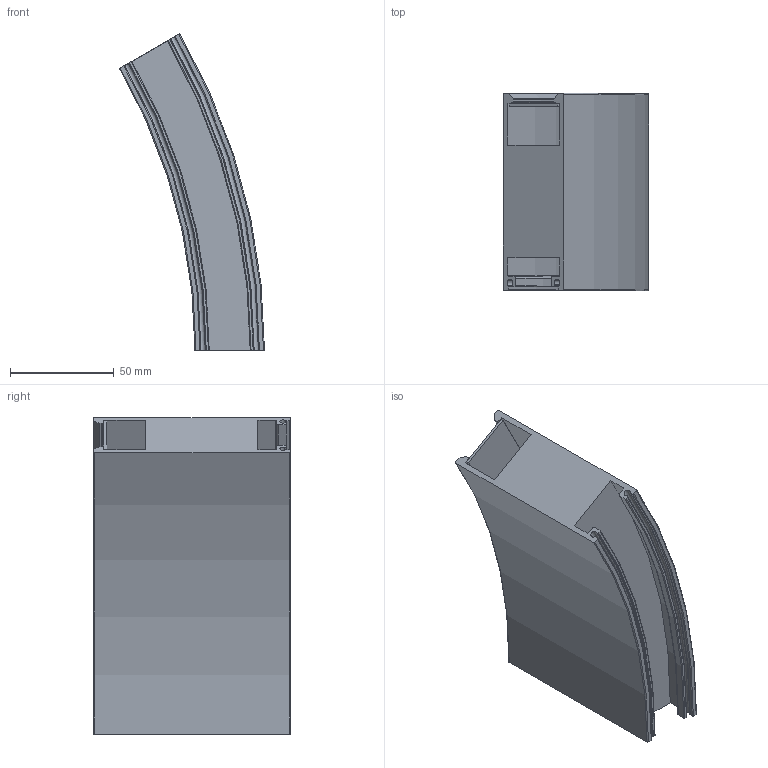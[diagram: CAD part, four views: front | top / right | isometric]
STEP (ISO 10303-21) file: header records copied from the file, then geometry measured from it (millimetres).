
FILE_DESCRIPTION(/* description */ (''),/* implementation_level */ '2;1');
FILE_NAME(/* name */ 'Evelo S R300 Blank Assembly.stp',/* time_stamp */ '2024-09-20T16:57:35+10:00',/* author */ ('Mlight Projects'),/* organization */ (''),/* preprocessor_version */ 'ST-DEVELOPER v20',/* originating_system */ 'Autodesk Inventor 2024',/* authorisation */ '');
FILE_SCHEMA (('AUTOMOTIVE_DESIGN { 1 0 10303 214 3 1 1 }'));
Length unit declared in the file: millimetre
Products named in the file (3): Evelo S R300 Blank Assembly; Body R200; Blanks R300
Assembly tree (2 placements, depth 2):
  Evelo S R300 Blank Assembly
    Body R200
    Blanks R300
Bounding box: 70.07 x 95.1 x 152.9 mm (x, y, z)
Volume: 320324 mm3; surface area: 69454 mm2
Topology: 2 solids, 2 shells, 66 faces, 186 edges, 124 vertices
Faces by surface type: torus 28, plane 18, cylinder 12, cone 8
Entity records: 2315 total; most frequent: DIRECTION 446, CARTESIAN_POINT 381, ORIENTED_EDGE 372, AXIS2_PLACEMENT_3D 189, EDGE_CURVE 186, VERTEX_POINT 124, CIRCLE 118, LINE 68
